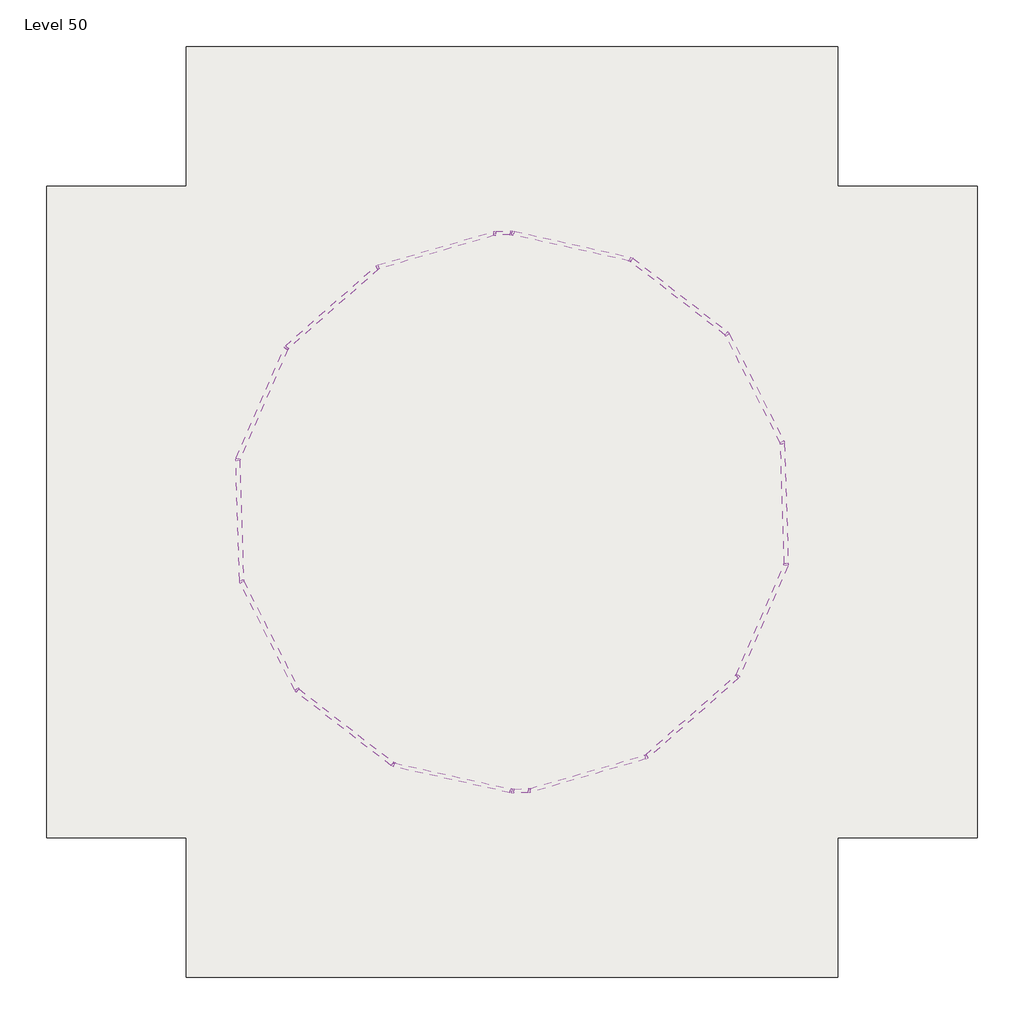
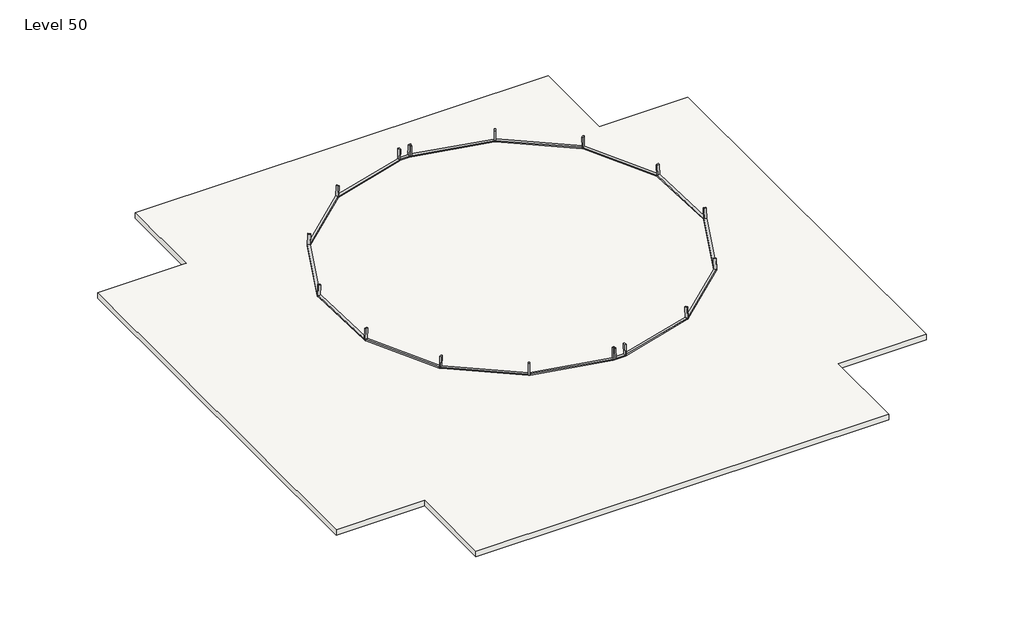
# One storey: 34 members, 2 slabs.
"""IFC4 building model written with IfcOpenShell, lengths in millimetres."""

from ifc_helpers import new_model, si_unit, frame, origin, place, context, project, spatial, polyline, outline, extrude, transform, mapped, element, save
from components import member_0456bca8, member_fa179ced, member_23fb2982, member_340acb32, member_628a761d, member_ef28eaa1

model = new_model("IFC4")

# Units and contexts
model_context = context("Model", 3, world=origin())
ifc_project = project(units=[si_unit("LENGTHUNIT", "METRE", prefix="MILLI")], contexts=[model_context])

# Site, building, storey
site = spatial("IfcSite", under=ifc_project)
building = spatial("IfcBuilding", under=site)
storey = spatial("IfcBuildingStorey", under=building, Name="Level 50", Elevation=149352.0)

# Members
placement = place(None, origin())
member_shape = member_0456bca8(model_context)
element("IfcMember", 1, ObjectType="Rectangular Mullion : 2.5\" x 5\" rectangular", at=placement, inside=storey, context=model_context, shape_type="MappedRepresentation", body=[
    mapped(member_shape, transform((-345.9696586, -14468.4078204, 152400.0), x_axis=(-0.007289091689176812, -0.032597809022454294, -0.9994419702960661), y_axis=(-0.2180961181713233, -0.9753554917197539, 0.03340281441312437), z_axis=(-0.9759000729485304, 0.21821789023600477, 0.0))),
])
element("IfcMember", 2, ObjectType="Rectangular Mullion : 2.5\" x 5\" rectangular", at=placement, inside=storey, context=model_context, shape_type="MappedRepresentation", body=[
    mapped(member_shape, transform((7381.2437673, 2091.7347299, 152400.0), x_axis=(0.007289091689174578, 0.03259780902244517, -0.9994419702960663), y_axis=(0.21809611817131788, 0.9753554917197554, 0.03340281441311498), z_axis=(0.9759000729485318, -0.2182178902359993, 0.0))),
])
member_2_shape = member_fa179ced(model_context)
element("IfcMember", 3, ObjectType="Rectangular Mullion : 2.5\" x 5\" rectangular", at=placement, inside=storey, context=model_context, shape_type="MappedRepresentation", body=[
    mapped(member_2_shape, transform((-3504.6361106, -12034.2510802, 152400.0), x_axis=(-0.020478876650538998, -0.026388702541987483, -0.9994419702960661), y_axis=(-0.6127462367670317, -0.789573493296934, 0.03340281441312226), z_axis=(-0.7900143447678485, 0.6130883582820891, 0.0))),
])
element("IfcMember", 4, ObjectType="Rectangular Mullion : 2.5\" x 5\" rectangular", at=placement, inside=storey, context=model_context, shape_type="MappedRepresentation", body=[
    mapped(member_2_shape, transform((-5325.7267217, -8486.5868096, 152400.0), x_axis=(-0.02976792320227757, -0.01515317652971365, -0.9994419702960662), y_axis=(-0.8906827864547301, -0.45339654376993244, 0.03340281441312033), z_axis=(-0.45364969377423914, 0.8911800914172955, 0.0))),
])
element("IfcMember", 5, ObjectType="Rectangular Mullion : 2.5\" x 5\" rectangular", at=placement, inside=storey, context=model_context, shape_type="MappedRepresentation", body=[
    mapped(member_2_shape, transform((-5462.3670898, -4501.1605838, 152400.0), x_axis=(-0.03338688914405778, -0.001031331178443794, -0.9994419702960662), y_axis=(-0.998965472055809, -0.030858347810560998, 0.033402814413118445), z_axis=(-0.030875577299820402, 0.9995232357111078, 0.0))),
])
element("IfcMember", 6, ObjectType="Rectangular Mullion : 2.5\" x 5\" rectangular", at=placement, inside=storey, context=model_context, shape_type="MappedRepresentation", body=[
    mapped(member_2_shape, transform((-3888.530478, -837.1012078, 152400.0), x_axis=(-0.030646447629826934, 0.01328695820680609, -0.9994419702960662), y_axis=(-0.9169690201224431, 0.3975576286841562, 0.033402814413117), z_axis=(0.39777960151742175, 0.9174810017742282, 0.0))),
])
element("IfcMember", 7, ObjectType="Rectangular Mullion : 2.5\" x 5\" rectangular", at=placement, inside=storey, context=model_context, shape_type="MappedRepresentation", body=[
    mapped(member_2_shape, transform((-903.9952886, 1807.6752467, 152400.0), x_axis=(-0.02206858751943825, 0.025074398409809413, -0.9994419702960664), y_axis=(-0.6603118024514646, 0.7502483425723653, 0.03340281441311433), z_axis=(0.7506672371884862, 0.66068048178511, 0.0))),
])
element("IfcMember", 8, ObjectType="Rectangular Mullion : 2.5\" x 5\" rectangular", at=placement, inside=storey, context=model_context, shape_type="MappedRepresentation", body=[
    mapped(member_2_shape, transform((2922.7555852, 2929.4018361, 152400.0), x_axis=(-0.00928718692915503, 0.03208576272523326, -0.9994419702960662), y_axis=(-0.27788090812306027, 0.9600346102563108, 0.033402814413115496), z_axis=(0.9605706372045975, 0.2780360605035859, 0.0))),
])
element("IfcMember", 9, ObjectType="Rectangular Mullion : 2.5\" x 5\" rectangular", at=placement, inside=storey, context=model_context, shape_type="MappedRepresentation", body=[
    mapped(member_2_shape, transform((10539.9102194, -342.4220103, 152400.0), x_axis=(0.020478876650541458, 0.026388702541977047, -0.9994419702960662), y_axis=(0.6127462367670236, 0.7895734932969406, 0.033402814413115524), z_axis=(0.7900143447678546, -0.613088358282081, 0.0))),
])
element("IfcMember", 10, ObjectType="Rectangular Mullion : 2.5\" x 5\" rectangular", at=placement, inside=storey, context=model_context, shape_type="MappedRepresentation", body=[
    mapped(member_2_shape, transform((12361.0008305, -3890.086281, 152400.0), x_axis=(0.029767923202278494, 0.01515317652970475, -0.9994419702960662), y_axis=(0.8906827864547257, 0.45339654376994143, 0.03340281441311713), z_axis=(0.45364969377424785, -0.891180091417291, 0.0))),
])
element("IfcMember", 11, ObjectType="Rectangular Mullion : 2.5\" x 5\" rectangular", at=placement, inside=storey, context=model_context, shape_type="MappedRepresentation", body=[
    mapped(member_2_shape, transform((12497.6411985, -7875.5125067, 152400.0), x_axis=(0.03338688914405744, 0.0010313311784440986, -0.9994419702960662), y_axis=(0.9989654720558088, 0.03085834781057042, 0.03340281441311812), z_axis=(0.030875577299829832, -0.9995232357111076, 0.0))),
])
element("IfcMember", 12, ObjectType="Rectangular Mullion : 2.5\" x 5\" rectangular", at=placement, inside=storey, context=model_context, shape_type="MappedRepresentation", body=[
    mapped(member_2_shape, transform((10923.8045867, -11539.5718827, 152400.0), x_axis=(0.030646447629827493, -0.013286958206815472, -0.9994419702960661), y_axis=(0.9169690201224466, -0.39755762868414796, 0.03340281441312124), z_axis=(-0.3977796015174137, -0.9174810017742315, 0.0))),
])
element("IfcMember", 13, ObjectType="Rectangular Mullion : 2.5\" x 5\" rectangular", at=placement, inside=storey, context=model_context, shape_type="MappedRepresentation", body=[
    mapped(member_2_shape, transform((7939.2693973, -14184.3483372, 152400.0), x_axis=(0.02206858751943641, -0.02507439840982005, -0.9994419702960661), y_axis=(0.6603118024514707, -0.7502483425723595, 0.0334028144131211), z_axis=(-0.7506672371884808, -0.6606804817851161, 0.0))),
])
element("IfcMember", 14, ObjectType="Rectangular Mullion : 2.5\" x 5\" rectangular", at=placement, inside=storey, context=model_context, shape_type="MappedRepresentation", body=[
    mapped(member_2_shape, transform((4112.5185236, -15306.0749267, 152400.0), x_axis=(0.009287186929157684, -0.03208576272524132, -0.9994419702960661), y_axis=(0.277880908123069, -0.9600346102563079, 0.033402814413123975), z_axis=(-0.9605706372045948, -0.27803606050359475, 0.0))),
])
member_3_shape = member_23fb2982(model_context)
element("IfcMember", 15, ObjectType="Rectangular Mullion : 2.5\" x 5\" rectangular", at=placement, inside=storey, context=model_context, shape_type="MappedRepresentation", body=[
    mapped(member_3_shape, transform((3454.1673289, 2953.7028556, 152400.0), x_axis=(-0.0010562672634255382, 0.03419413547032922, -0.9994146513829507), y_axis=(-0.030857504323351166, 0.9989381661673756, 0.034210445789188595), z_axis=(0.9995232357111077, 0.030875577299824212, 0.0))),
])
element("IfcMember", 16, ObjectType="Rectangular Mullion : 2.5\" x 5\" rectangular", at=placement, inside=storey, context=model_context, shape_type="MappedRepresentation", body=[
    mapped(member_3_shape, transform((3581.1067798, -15330.3759461, 152400.0), x_axis=(0.0010562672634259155, -0.034194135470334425, -0.9994146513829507), y_axis=(0.03085750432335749, -0.9989381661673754, 0.03421044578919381), z_axis=(-0.9995232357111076, -0.030875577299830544, 0.0))),
])
member_4_shape = member_340acb32(model_context)
element("IfcMember", 17, ObjectType="Rectangular Mullion : 2.5\" x 5\" rectangular", at=placement, inside=storey, context=model_context, shape_type="MappedRepresentation", body=[
    mapped(member_4_shape, transform((-3513.2075327, -12001.1345038, 153025.5719668), x_axis=(-0.6371882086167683, 0.7707082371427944, 0.0), y_axis=(-0.7702566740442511, -0.6368148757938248, 0.034226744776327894), z_axis=(0.026378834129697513, 0.021808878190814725, 0.9994140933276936))),
])
element("IfcMember", 18, ObjectType="Rectangular Mullion : 2.5\" x 5\" rectangular", at=placement, inside=storey, context=model_context, shape_type="MappedRepresentation", body=[
    mapped(member_4_shape, transform((-5319.3768815, -8452.9734723, 153025.5719668), x_axis=(-0.24824532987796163, 0.9686971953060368, 0.0), y_axis=(-0.9681296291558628, -0.24809988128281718, 0.03422674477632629), z_axis=(0.03315535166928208, 0.008496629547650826, 0.9994140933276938))),
])
element("IfcMember", 19, ObjectType="Rectangular Mullion : 2.5\" x 5\" rectangular", at=placement, inside=storey, context=model_context, shape_type="MappedRepresentation", body=[
    mapped(member_4_shape, transform((-367.8296911, -14442.0959241, 153025.5719668), x_axis=(-0.9047619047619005, 0.4259177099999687, 0.0), y_axis=(-0.4256681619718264, -0.904231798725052, 0.0342267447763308), z_axis=(0.014577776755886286, 0.030967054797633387, 0.9994140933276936))),
])
element("IfcMember", 20, ObjectType="Rectangular Mullion : 2.5\" x 5\" rectangular", at=placement, inside=storey, context=model_context, shape_type="MappedRepresentation", body=[
    mapped(member_4_shape, transform((-5442.3054806, -4473.4530262, 153025.5719668), x_axis=(0.18798237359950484, 0.9821724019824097, 0.0), y_axis=(-0.9815969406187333, 0.1878722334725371, 0.03422674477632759), z_axis=(0.03361656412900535, -0.006434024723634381, 0.9994140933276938))),
])
element("IfcMember", 21, ObjectType="Rectangular Mullion : 2.5\" x 5\" rectangular", at=placement, inside=storey, context=model_context, shape_type="MappedRepresentation", body=[
    mapped(member_4_shape, transform((-3858.5783588, -820.5770599, 153025.5719668), x_axis=(0.5884039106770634, 0.8085671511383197, 0.0), y_axis=(-0.8080934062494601, 0.5880591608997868, 0.034226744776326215), z_axis=(0.027674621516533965, -0.020139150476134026, 0.9994140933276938))),
])
element("IfcMember", 22, ObjectType="Rectangular Mullion : 2.5\" x 5\" rectangular", at=placement, inside=storey, context=model_context, shape_type="MappedRepresentation", body=[
    mapped(member_4_shape, transform((-869.8578249, 1809.8685283, 153025.5719668), x_axis=(0.8767485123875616, 0.4809491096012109, 0.0), y_axis=(-0.48066731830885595, 0.8762348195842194, 0.03422674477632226), z_axis=(0.016461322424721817, -0.03000824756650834, 0.999414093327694))),
])
element("IfcMember", 23, ObjectType="Rectangular Mullion : 2.5\" x 5\" rectangular", at=placement, inside=storey, context=model_context, shape_type="MappedRepresentation", body=[
    mapped(member_4_shape, transform((2954.5760193, 2916.8464834, 153025.5719668), x_axis=(0.9980933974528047, 0.061721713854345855, 0.0), y_axis=(-0.061685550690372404, 0.9975086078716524, 0.03422674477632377), z_axis=(0.0021125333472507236, -0.034161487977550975, 0.9994140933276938))),
])
element("IfcMember", 24, ObjectType="Rectangular Mullion : 2.5\" x 5\" rectangular", at=placement, inside=storey, context=model_context, shape_type="MappedRepresentation", body=[
    mapped(member_4_shape, transform((7403.1037999, 2065.4228336, 153025.5719668), x_axis=(0.9047619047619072, -0.4259177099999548, 0.0), y_axis=(0.42566816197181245, 0.9042317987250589, 0.03422674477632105), z_axis=(-0.014577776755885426, -0.030967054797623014, 0.9994140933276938))),
])
element("IfcMember", 25, ObjectType="Rectangular Mullion : 2.5\" x 5\" rectangular", at=placement, inside=storey, context=model_context, shape_type="MappedRepresentation", body=[
    mapped(member_4_shape, transform((10548.4816414, -375.5385867, 153025.5719668), x_axis=(0.6371882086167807, -0.7707082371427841, 0.0), y_axis=(0.7702566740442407, 0.6368148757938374, 0.03422674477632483), z_axis=(-0.026378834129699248, -0.02180887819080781, 0.9994140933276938))),
])
element("IfcMember", 26, ObjectType="Rectangular Mullion : 2.5\" x 5\" rectangular", at=placement, inside=storey, context=model_context, shape_type="MappedRepresentation", body=[
    mapped(member_4_shape, transform((12354.6509902, -3923.6996182, 153025.5719668), x_axis=(0.24824532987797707, -0.9686971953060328, 0.0), y_axis=(0.9681296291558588, 0.24809988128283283, 0.034226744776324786), z_axis=(-0.03315535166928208, -0.008496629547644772, 0.9994140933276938))),
])
element("IfcMember", 27, ObjectType="Rectangular Mullion : 2.5\" x 5\" rectangular", at=placement, inside=storey, context=model_context, shape_type="MappedRepresentation", body=[
    mapped(member_4_shape, transform((12477.5795894, -7903.2200643, 153025.5719668), x_axis=(-0.1879823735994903, -0.9821724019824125, 0.0), y_axis=(0.981596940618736, -0.18787223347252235, 0.03422674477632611), z_axis=(-0.033616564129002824, 0.006434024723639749, 0.9994140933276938))),
])
element("IfcMember", 28, ObjectType="Rectangular Mullion : 2.5\" x 5\" rectangular", at=placement, inside=storey, context=model_context, shape_type="MappedRepresentation", body=[
    mapped(member_4_shape, transform((10893.8524675, -11556.0960307, 153025.5719668), x_axis=(-0.5884039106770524, -0.8085671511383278, 0.0), y_axis=(0.8080934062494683, -0.5880591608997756, 0.034226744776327), z_axis=(-0.027674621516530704, 0.02013915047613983, 0.9994140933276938))),
])
element("IfcMember", 29, ObjectType="Rectangular Mullion : 2.5\" x 5\" rectangular", at=placement, inside=storey, context=model_context, shape_type="MappedRepresentation", body=[
    mapped(member_4_shape, transform((7905.1319337, -14186.5416188, 153025.5719668), x_axis=(-0.876748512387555, -0.4809491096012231, 0.0), y_axis=(0.480667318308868, -0.8762348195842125, 0.03422674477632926), z_axis=(-0.016461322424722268, 0.030008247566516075, 0.9994140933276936))),
])
element("IfcMember", 30, ObjectType="Rectangular Mullion : 2.5\" x 5\" rectangular", at=placement, inside=storey, context=model_context, shape_type="MappedRepresentation", body=[
    mapped(member_4_shape, transform((4080.6980895, -15293.5195739, 153025.5719668), x_axis=(-0.9980933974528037, -0.061721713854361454, 0.0), y_axis=(0.06168555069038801, -0.9975086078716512, 0.03422674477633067), z_axis=(-0.002112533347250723, 0.034161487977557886, 0.9994140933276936))),
])
member_5_shape = member_628a761d(model_context)
element("IfcMember", 31, ObjectType="Rectangular Mullion : 2.5\" x 5\" rectangular", at=placement, inside=storey, context=model_context, shape_type="MappedRepresentation", body=[
    mapped(member_5_shape, transform((3517.6370544, 2934.2396103, 153025.5719668), x_axis=(0.9995237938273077, 0.030839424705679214, 0.0010561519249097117), y_axis=(-0.03085750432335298, 0.9989381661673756, 0.034210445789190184), z_axis=(0.0, -0.034226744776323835, 0.9994140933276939))),
])
element("IfcMember", 32, ObjectType="Rectangular Mullion : 2.5\" x 5\" rectangular", at=placement, inside=storey, context=model_context, shape_type="MappedRepresentation", body=[
    mapped(member_5_shape, transform((3517.6370544, -15310.9127008, 153025.5719668), x_axis=(-0.9995237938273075, -0.030839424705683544, 0.0010561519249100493), y_axis=(0.030857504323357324, -0.9989381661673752, 0.03421044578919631), z_axis=(0.0, 0.03422674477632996, 0.9994140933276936))),
])
member_6_shape = member_ef28eaa1(model_context)
element("IfcMember", 33, ObjectType="Rectangular Mullion : 2.5\" x 5\" rectangular", at=placement, inside=storey, context=model_context, shape_type="MappedRepresentation", body=[
    mapped(member_6_shape, transform((3517.6370544, -15332.3365453, 152400.0), x_axis=(0.9759272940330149, -0.2179683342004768, 0.007464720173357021), y_axis=(-0.21809611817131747, -0.9753554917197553, 0.033402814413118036), z_axis=(0.0, -0.03422674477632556, -0.9994140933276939))),
])
element("IfcMember", 34, ObjectType="Rectangular Mullion : 2.5\" x 5\" rectangular", at=placement, inside=storey, context=model_context, shape_type="MappedRepresentation", body=[
    mapped(member_6_shape, transform((3517.6370544, 2955.6634547, 152400.0), x_axis=(-0.9759272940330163, 0.21796833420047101, 0.007464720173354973), y_axis=(0.2180961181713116, 0.9753554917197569, 0.03340281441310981), z_axis=(0.0, 0.03422674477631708, -0.999414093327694))),
])

# Slabs
element("IfcSlab", 35, ObjectType="Generic - 12\"", at=placement, inside=storey, context=model_context, shape_type="SweptSolid", body=[
    extrude(outline(polyline([(-7150.3629456, 4479.6634547), (-7150.3629456, 9051.6634547), (14185.6370544, 9051.6634547), (14185.6370544, 4479.6634547), (18757.6370544, 4479.6634547), (18757.6370544, -16856.3365453), (14185.6370544, -16856.3365453), (14185.6370544, -21428.3365453), (-7150.3629456, -21428.3365453), (-7150.3629456, -16856.3365453), (-11722.3629456, -16856.3365453), (-11722.3629456, 4479.6634547), (-7150.3629456, 4479.6634547)])), frame((0.0, 0.0, 149047.2), z_axis=(0.0, 0.0, 1.0), x_axis=(1.0, 0.0, 0.0)), (0.0, 0.0, 1.0), 304.8),
])
element("IfcSlab", 36, ObjectType="Generic - 12\"", at=placement, inside=storey, context=model_context, shape_type="SweptSolid", body=[
    extrude(outline(polyline([(-7150.3629456, 4479.6634547), (-7150.3629456, 9051.6634547), (14185.6370544, 9051.6634547), (14185.6370544, 4479.6634547), (18757.6370544, 4479.6634547), (18757.6370544, -16856.3365453), (14185.6370544, -16856.3365453), (14185.6370544, -21428.3365453), (-7150.3629456, -21428.3365453), (-7150.3629456, -16856.3365453), (-11722.3629456, -16856.3365453), (-11722.3629456, 4479.6634547), (-7150.3629456, 4479.6634547)])), frame((0.0, 0.0, 149047.2), z_axis=(0.0, 0.0, 1.0), x_axis=(1.0, 0.0, 0.0)), (0.0, 0.0, 1.0), 304.8),
])

save(model, "model.ifc")
